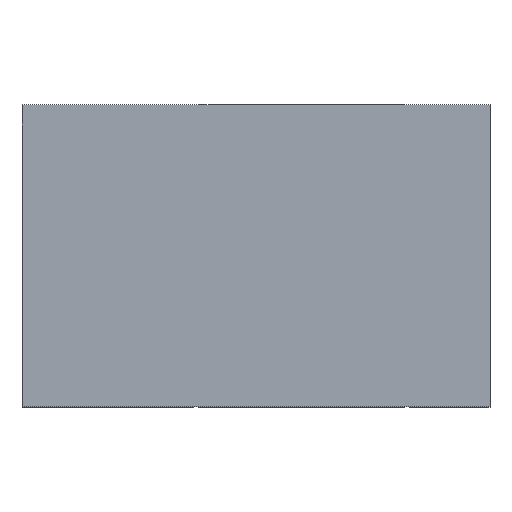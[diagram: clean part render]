
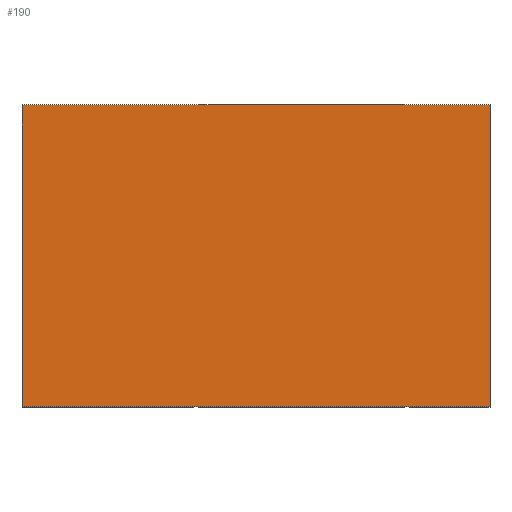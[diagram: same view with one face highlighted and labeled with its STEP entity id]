
A CAD part, top view. The second image highlights one B-rep face of the part: STEP entity #190.
In plain terms, the highlighted planar face has unit normal (0, 0, 1).
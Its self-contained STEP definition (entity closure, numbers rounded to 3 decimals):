
#190 = ADVANCED_FACE( '', ( #395 ), #396, .T. );
#395 = FACE_OUTER_BOUND( '', #809, .T. );
#396 = PLANE( '', #810 );
#809 = EDGE_LOOP( '', ( #1290, #1291, #1292, #1293 ) );
#810 = AXIS2_PLACEMENT_3D( '', #1294, #1295, #1296 );
#1290 = ORIENTED_EDGE( '', *, *, #2761, .T. );
#1291 = ORIENTED_EDGE( '', *, *, #2767, .F. );
#1292 = ORIENTED_EDGE( '', *, *, #2750, .T. );
#1293 = ORIENTED_EDGE( '', *, *, #2775, .T. );
#1294 = CARTESIAN_POINT( '', ( -37.5, -30., 21. ) );
#1295 = DIRECTION( '', ( 0., 0., 1. ) );
#1296 = DIRECTION( '', ( 1., 0., 0. ) );
#2750 = EDGE_CURVE( '', #3238, #3236, #3239, .T. );
#2761 = EDGE_CURVE( '', #3259, #3257, #3260, .T. );
#2767 = EDGE_CURVE( '', #3238, #3257, #3267, .T. );
#2775 = EDGE_CURVE( '', #3236, #3259, #3278, .T. );
#3236 = VERTEX_POINT( '', #4043 );
#3238 = VERTEX_POINT( '', #4046 );
#3239 = LINE( '', #4047, #4048 );
#3257 = VERTEX_POINT( '', #4072 );
#3259 = VERTEX_POINT( '', #4075 );
#3260 = LINE( '', #4076, #4077 );
#3267 = LINE( '', #4088, #4089 );
#3278 = LINE( '', #4102, #4103 );
#4043 = CARTESIAN_POINT( '', ( 37.5, -30., 21. ) );
#4046 = CARTESIAN_POINT( '', ( -55.5, -30., 21. ) );
#4047 = CARTESIAN_POINT( '', ( -37.5, -30., 21. ) );
#4048 = VECTOR( '', #5210, 1000. );
#4072 = CARTESIAN_POINT( '', ( -55.5, 30., 21. ) );
#4075 = CARTESIAN_POINT( '', ( 37.5, 30., 21. ) );
#4076 = CARTESIAN_POINT( '', ( 37.5, 30., 21. ) );
#4077 = VECTOR( '', #5227, 1000. );
#4088 = CARTESIAN_POINT( '', ( -55.5, -30., 21. ) );
#4089 = VECTOR( '', #5235, 1000. );
#4102 = CARTESIAN_POINT( '', ( 37.5, -30., 21. ) );
#4103 = VECTOR( '', #5253, 1000. );
#5210 = DIRECTION( '', ( 1., 0., 0. ) );
#5227 = DIRECTION( '', ( -1., 0., 0. ) );
#5235 = DIRECTION( '', ( 0., 1., 0. ) );
#5253 = DIRECTION( '', ( 0., 1., 0. ) );
